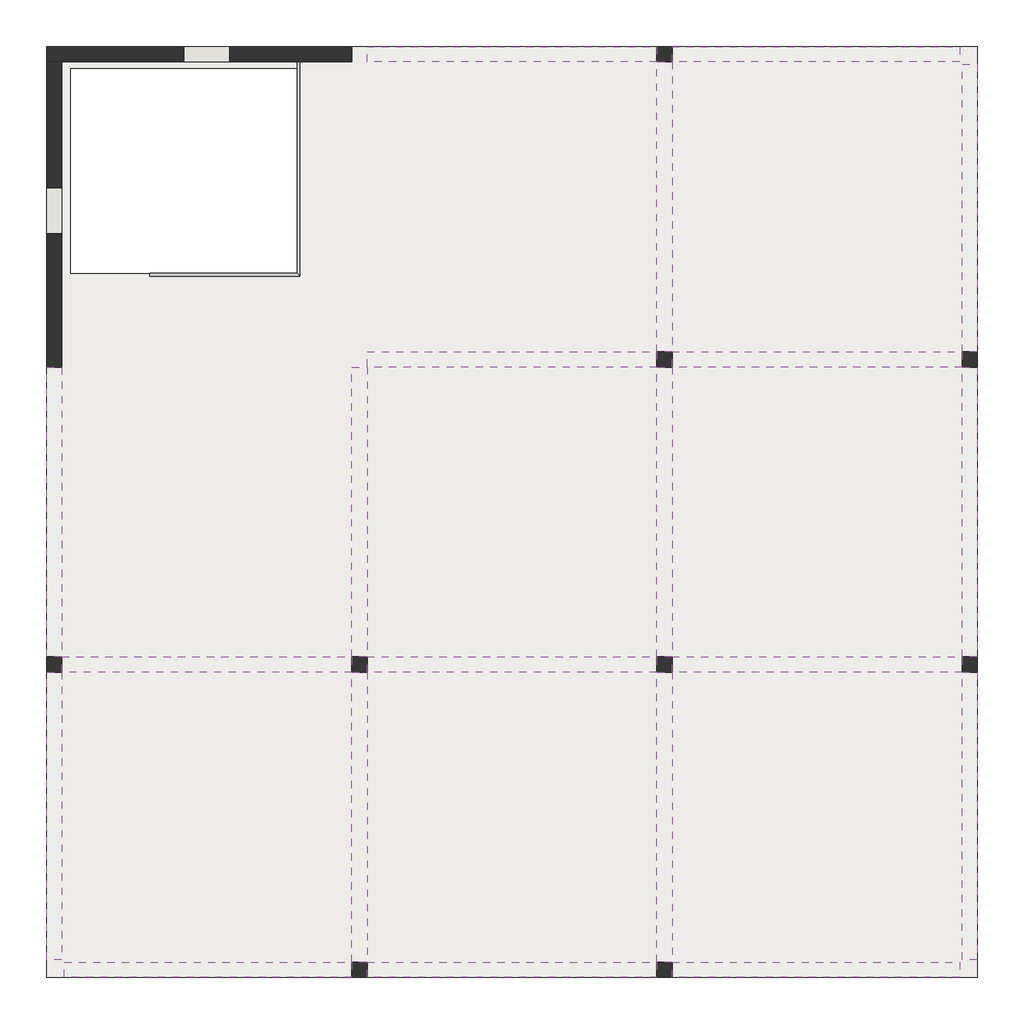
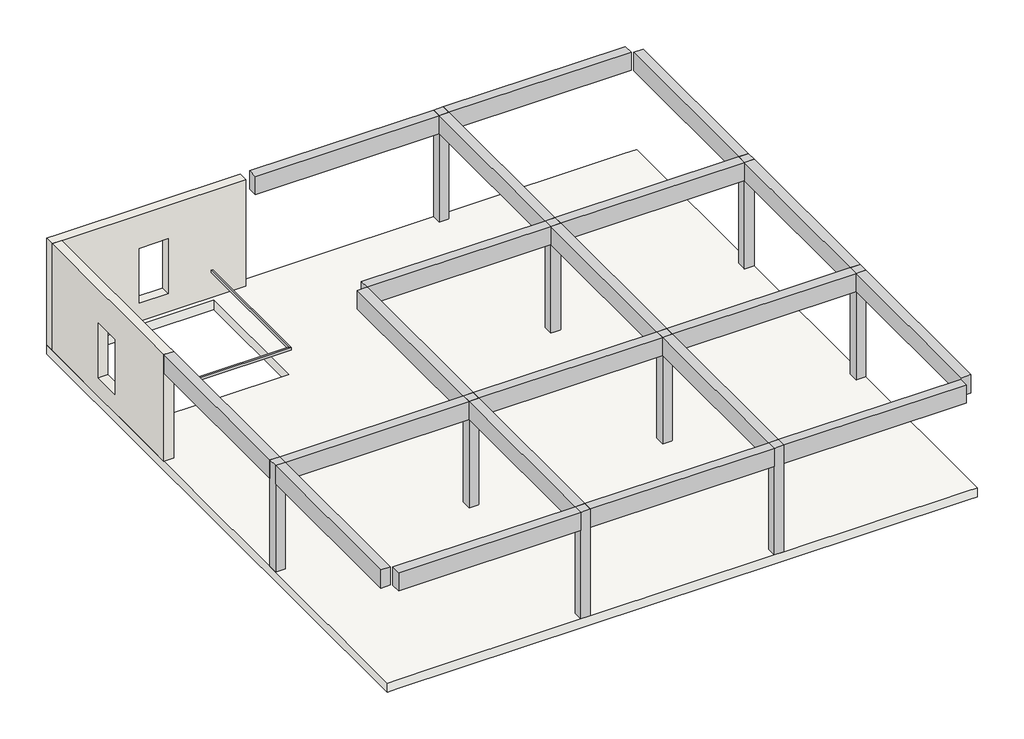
# One storey: 20 beams, 9 columns, 5 slabs, 2 walls, 1 railing.
"""IFC4 building model written with IfcOpenShell, lengths in millimetres."""

from ifc_helpers import new_model, si_unit, frame, origin, place, context, project, spatial, polyline, outline, extrude, faceted_brep, transform, mapped, element, save
from components import railing_900_mm_d9ed72f4, fundament_1db0145b

model = new_model("IFC4")

# Units and contexts
model_context = context("Model", 3, world=origin())
ifc_project = project(units=[si_unit("LENGTHUNIT", "METRE", prefix="MILLI")], contexts=[model_context])

# Site, building, storey
site = spatial("IfcSite", under=ifc_project)
building = spatial("IfcBuilding", under=site)
storey = spatial("IfcBuildingStorey", under=building, Name="Decke über KG", Elevation=0.0)

# Beams
placement = place(None, origin())
element("IfcBeam", 1, ObjectType="STB Unterzug : STB 30 x 60", at=placement, inside=storey, context=model_context, shape_type="SweptSolid", body=[
    extrude(outline(polyline([(-8591.8279477, -1996.8681354), (-8891.8279477, -1996.8681354), (-8891.8279477, 3703.1318646), (-8591.8279477, 3703.1318646), (-8591.8279477, -1996.8681354)])), frame((0.0, 0.0, 2900.0), z_axis=(0.0, 0.0, 1.0), x_axis=(1.0, 0.0, 0.0)), (0.0, 0.0, 1.0), 600.0),
])
element("IfcBeam", 2, ObjectType="STB Unterzug : STB 30 x 60", at=placement, inside=storey, context=model_context, shape_type="SweptSolid", body=[
    extrude(outline(polyline([(-8891.8279477, -2296.8681354), (-8591.8279477, -2296.8681354), (-8591.8279477, -7946.8681354), (-8891.8279477, -7946.8681354), (-8891.8279477, -2296.8681354)])), frame((0.0, 0.0, 2900.0), z_axis=(0.0, 0.0, 1.0), x_axis=(1.0, 0.0, 0.0)), (0.0, 0.0, 1.0), 600.0),
])
element("IfcBeam", 3, ObjectType="STB Unterzug : STB 30 x 60", at=placement, inside=storey, context=model_context, shape_type="SweptSolid", body=[
    extrude(outline(polyline([(-2591.8279477, -1996.8681354), (-2891.8279477, -1996.8681354), (-2891.8279477, 3703.1318646), (-2591.8279477, 3703.1318646), (-2591.8279477, -1996.8681354)])), frame((0.0, 0.0, 2900.0), z_axis=(0.0, 0.0, 1.0), x_axis=(1.0, 0.0, 0.0)), (0.0, 0.0, 1.0), 600.0),
])
element("IfcBeam", 4, ObjectType="STB Unterzug : STB 30 x 60", at=placement, inside=storey, context=model_context, shape_type="SweptSolid", body=[
    extrude(outline(polyline([(-2591.8279477, -7996.8681354), (-2891.8279477, -7996.8681354), (-2891.8279477, -2296.8681354), (-2591.8279477, -2296.8681354), (-2591.8279477, -7996.8681354)])), frame((0.0, 0.0, 2900.0), z_axis=(0.0, 0.0, 1.0), x_axis=(1.0, 0.0, 0.0)), (0.0, 0.0, 1.0), 600.0),
])
element("IfcBeam", 5, ObjectType="STB Unterzug : STB 30 x 60", at=placement, inside=storey, context=model_context, shape_type="SweptSolid", body=[
    extrude(outline(polyline([(3408.1720523, 4003.1318646), (3108.1720523, 4003.1318646), (3108.1720523, 9703.1318646), (3408.1720523, 9703.1318646), (3408.1720523, 4003.1318646)])), frame((0.0, 0.0, 2900.0), z_axis=(0.0, 0.0, 1.0), x_axis=(1.0, 0.0, 0.0)), (0.0, 0.0, 1.0), 600.0),
])
element("IfcBeam", 6, ObjectType="STB Unterzug : STB 30 x 60", at=placement, inside=storey, context=model_context, shape_type="SweptSolid", body=[
    extrude(outline(polyline([(3408.1720523, -1996.8681354), (3108.1720523, -1996.8681354), (3108.1720523, 3703.1318646), (3408.1720523, 3703.1318646), (3408.1720523, -1996.8681354)])), frame((0.0, 0.0, 2900.0), z_axis=(0.0, 0.0, 1.0), x_axis=(1.0, 0.0, 0.0)), (0.0, 0.0, 1.0), 600.0),
])
element("IfcBeam", 7, ObjectType="STB Unterzug : STB 30 x 60", at=placement, inside=storey, context=model_context, shape_type="SweptSolid", body=[
    extrude(outline(polyline([(3408.1720523, -7996.8681354), (3108.1720523, -7996.8681354), (3108.1720523, -2296.8681354), (3408.1720523, -2296.8681354), (3408.1720523, -7996.8681354)])), frame((0.0, 0.0, 2900.0), z_axis=(0.0, 0.0, 1.0), x_axis=(1.0, 0.0, 0.0)), (0.0, 0.0, 1.0), 600.0),
])
element("IfcBeam", 8, ObjectType="STB Unterzug : STB 30 x 60", at=placement, inside=storey, context=model_context, shape_type="SweptSolid", body=[
    extrude(outline(polyline([(9408.1720523, 4003.1318646), (9108.1720523, 4003.1318646), (9108.1720523, 9653.1318646), (9408.1720523, 9653.1318646), (9408.1720523, 4003.1318646)])), frame((0.0, 0.0, 2900.0), z_axis=(0.0, 0.0, 1.0), x_axis=(1.0, 0.0, 0.0)), (0.0, 0.0, 1.0), 600.0),
])
element("IfcBeam", 9, ObjectType="STB Unterzug : STB 30 x 60", at=placement, inside=storey, context=model_context, shape_type="SweptSolid", body=[
    extrude(outline(polyline([(9408.1720523, -1996.8681354), (9108.1720523, -1996.8681354), (9108.1720523, 3703.1318646), (9408.1720523, 3703.1318646), (9408.1720523, -1996.8681354)])), frame((0.0, 0.0, 2900.0), z_axis=(0.0, 0.0, 1.0), x_axis=(1.0, 0.0, 0.0)), (0.0, 0.0, 1.0), 600.0),
])
element("IfcBeam", 10, ObjectType="STB Unterzug : STB 30 x 60", at=placement, inside=storey, context=model_context, shape_type="SweptSolid", body=[
    extrude(outline(polyline([(9108.1720523, -2296.8681354), (9408.1720523, -2296.8681354), (9408.1720523, -7946.8681354), (9108.1720523, -7946.8681354), (9108.1720523, -2296.8681354)])), frame((0.0, 0.0, 2900.0), z_axis=(0.0, 0.0, 1.0), x_axis=(1.0, 0.0, 0.0)), (0.0, 0.0, 1.0), 600.0),
])
element("IfcBeam", 11, ObjectType="STB Unterzug : STB 30 x 60", at=placement, inside=storey, context=model_context, shape_type="SweptSolid", body=[
    extrude(outline(polyline([(3408.1720523, -8296.8681354), (3408.1720523, -7996.8681354), (9058.1720523, -7996.8681354), (9058.1720523, -8296.8681354), (3408.1720523, -8296.8681354)])), frame((0.0, 0.0, 2900.0), z_axis=(0.0, 0.0, 1.0), x_axis=(1.0, 0.0, 0.0)), (0.0, 0.0, 1.0), 600.0),
])
element("IfcBeam", 12, ObjectType="STB Unterzug : STB 30 x 60", at=placement, inside=storey, context=model_context, shape_type="SweptSolid", body=[
    extrude(outline(polyline([(-2591.8279477, -8296.8681354), (-2591.8279477, -7996.8681354), (3108.1720523, -7996.8681354), (3108.1720523, -8296.8681354), (-2591.8279477, -8296.8681354)])), frame((0.0, 0.0, 2900.0), z_axis=(0.0, 0.0, 1.0), x_axis=(1.0, 0.0, 0.0)), (0.0, 0.0, 1.0), 600.0),
])
element("IfcBeam", 13, ObjectType="STB Unterzug : STB 30 x 60", at=placement, inside=storey, context=model_context, shape_type="SweptSolid", body=[
    extrude(outline(polyline([(-2891.8279477, -7996.8681354), (-2891.8279477, -8296.8681354), (-8541.8279477, -8296.8681354), (-8541.8279477, -7996.8681354), (-2891.8279477, -7996.8681354)])), frame((0.0, 0.0, 2900.0), z_axis=(0.0, 0.0, 1.0), x_axis=(1.0, 0.0, 0.0)), (0.0, 0.0, 1.0), 600.0),
])
element("IfcBeam", 14, ObjectType="STB Unterzug : STB 30 x 60", at=placement, inside=storey, context=model_context, shape_type="SweptSolid", body=[
    extrude(outline(polyline([(3408.1720523, -2296.8681354), (3408.1720523, -1996.8681354), (9108.1720523, -1996.8681354), (9108.1720523, -2296.8681354), (3408.1720523, -2296.8681354)])), frame((0.0, 0.0, 2900.0), z_axis=(0.0, 0.0, 1.0), x_axis=(1.0, 0.0, 0.0)), (0.0, 0.0, 1.0), 600.0),
])
element("IfcBeam", 15, ObjectType="STB Unterzug : STB 30 x 60", at=placement, inside=storey, context=model_context, shape_type="SweptSolid", body=[
    extrude(outline(polyline([(-2591.8279477, -2296.8681354), (-2591.8279477, -1996.8681354), (3108.1720523, -1996.8681354), (3108.1720523, -2296.8681354), (-2591.8279477, -2296.8681354)])), frame((0.0, 0.0, 2900.0), z_axis=(0.0, 0.0, 1.0), x_axis=(1.0, 0.0, 0.0)), (0.0, 0.0, 1.0), 600.0),
])
element("IfcBeam", 16, ObjectType="STB Unterzug : STB 30 x 60", at=placement, inside=storey, context=model_context, shape_type="SweptSolid", body=[
    extrude(outline(polyline([(-8591.8279477, -2296.8681354), (-8591.8279477, -1996.8681354), (-2891.8279477, -1996.8681354), (-2891.8279477, -2296.8681354), (-8591.8279477, -2296.8681354)])), frame((0.0, 0.0, 2900.0), z_axis=(0.0, 0.0, 1.0), x_axis=(1.0, 0.0, 0.0)), (0.0, 0.0, 1.0), 600.0),
])
element("IfcBeam", 17, ObjectType="STB Unterzug : STB 30 x 60", at=placement, inside=storey, context=model_context, shape_type="SweptSolid", body=[
    extrude(outline(polyline([(3408.1720523, 3703.1318646), (3408.1720523, 4003.1318646), (9108.1720523, 4003.1318646), (9108.1720523, 3703.1318646), (3408.1720523, 3703.1318646)])), frame((0.0, 0.0, 2900.0), z_axis=(0.0, 0.0, 1.0), x_axis=(1.0, 0.0, 0.0)), (0.0, 0.0, 1.0), 600.0),
])
element("IfcBeam", 18, ObjectType="STB Unterzug : STB 30 x 60", at=placement, inside=storey, context=model_context, shape_type="SweptSolid", body=[
    extrude(outline(polyline([(3108.1720523, 4003.1318646), (3108.1720523, 3703.1318646), (-2591.8279477, 3703.1318646), (-2591.8279477, 4003.1318646), (3108.1720523, 4003.1318646)])), frame((0.0, 0.0, 2900.0), z_axis=(0.0, 0.0, 1.0), x_axis=(1.0, 0.0, 0.0)), (0.0, 0.0, 1.0), 600.0),
])
element("IfcBeam", 19, ObjectType="STB Unterzug : STB 30 x 60", at=placement, inside=storey, context=model_context, shape_type="SweptSolid", body=[
    extrude(outline(polyline([(3408.1720523, 9703.1318646), (3408.1720523, 10003.1318646), (9058.1720523, 10003.1318646), (9058.1720523, 9703.1318646), (3408.1720523, 9703.1318646)])), frame((0.0, 0.0, 2900.0), z_axis=(0.0, 0.0, 1.0), x_axis=(1.0, 0.0, 0.0)), (0.0, 0.0, 1.0), 600.0),
])
element("IfcBeam", 20, ObjectType="STB Unterzug : STB 30 x 60", at=placement, inside=storey, context=model_context, shape_type="SweptSolid", body=[
    extrude(outline(polyline([(3108.1720523, 10003.1318646), (3108.1720523, 9703.1318646), (-2591.8279477, 9703.1318646), (-2591.8279477, 10003.1318646), (3108.1720523, 10003.1318646)])), frame((0.0, 0.0, 2900.0), z_axis=(0.0, 0.0, 1.0), x_axis=(1.0, 0.0, 0.0)), (0.0, 0.0, 1.0), 600.0),
])

# Columns
element("IfcColumn", 21, ObjectType="STB Stütze - rechteckig : STB 30 x 30", at=placement, inside=storey, context=model_context, shape_type="Brep", body=[
    faceted_brep([(-8891.8279477, -2296.8681354, 0.0), (-8891.8279477, -1996.8681354, 0.0), (-8591.8279477, -1996.8681354, 0.0), (-8591.8279477, -2296.8681354, 0.0), (-8891.8279477, -2296.8681354, 3500.0), (-8891.8279477, -1996.8681354, 3500.0), (-8891.8279477, -1996.8681354, 2900.0), (-8891.8279477, -2296.8681354, 2900.0), (-8591.8279477, -1996.8681354, 3500.0), (-8591.8279477, -1996.8681354, 2900.0), (-8591.8279477, -2296.8681354, 3500.0), (-8591.8279477, -2296.8681354, 2900.0)], [[[0, 1, 2, 3]], [[4, 5, 6, 1, 0, 7]], [[5, 8, 9, 2, 1, 6]], [[8, 10, 11, 3, 2, 9]], [[10, 4, 7, 0, 3, 11]], [[4, 10, 8, 5]]]),
])
element("IfcColumn", 22, ObjectType="STB Stütze - rechteckig : STB 30 x 30", at=placement, inside=storey, context=model_context, shape_type="Brep", body=[
    faceted_brep([(-2891.8279477, -8296.8681354, 0.0), (-2891.8279477, -7996.8681354, 0.0), (-2591.8279477, -7996.8681354, 0.0), (-2591.8279477, -8296.8681354, 0.0), (-2891.8279477, -8296.8681354, 3500.0), (-2891.8279477, -7996.8681354, 3500.0), (-2891.8279477, -7996.8681354, 2900.0), (-2891.8279477, -8296.8681354, 2900.0), (-2591.8279477, -7996.8681354, 3500.0), (-2591.8279477, -7996.8681354, 2900.0), (-2591.8279477, -8296.8681354, 3500.0), (-2591.8279477, -8296.8681354, 2900.0)], [[[0, 1, 2, 3]], [[4, 5, 6, 1, 0, 7]], [[5, 8, 9, 2, 1, 6]], [[8, 10, 11, 3, 2, 9]], [[10, 4, 7, 0, 3, 11]], [[4, 10, 8, 5]]]),
])
element("IfcColumn", 23, ObjectType="STB Stütze - rechteckig : STB 30 x 30", at=placement, inside=storey, context=model_context, shape_type="Brep", body=[
    faceted_brep([(-2891.8279477, -2296.8681354, 0.0), (-2891.8279477, -1996.8681354, 0.0), (-2591.8279477, -1996.8681354, 0.0), (-2591.8279477, -2296.8681354, 0.0), (-2891.8279477, -2296.8681354, 3500.0), (-2891.8279477, -1996.8681354, 3500.0), (-2891.8279477, -1996.8681354, 2900.0), (-2891.8279477, -2296.8681354, 2900.0), (-2591.8279477, -1996.8681354, 3500.0), (-2591.8279477, -1996.8681354, 2900.0), (-2591.8279477, -2296.8681354, 3500.0), (-2591.8279477, -2296.8681354, 2900.0)], [[[0, 1, 2, 3]], [[4, 5, 6, 1, 0, 7]], [[5, 8, 9, 2, 1, 6]], [[8, 10, 11, 3, 2, 9]], [[10, 4, 7, 0, 3, 11]], [[4, 10, 8, 5]]]),
])
element("IfcColumn", 24, ObjectType="STB Stütze - rechteckig : STB 30 x 30", at=placement, inside=storey, context=model_context, shape_type="Brep", body=[
    faceted_brep([(3108.1720523, -8296.8681354, 0.0), (3108.1720523, -7996.8681354, 0.0), (3408.1720523, -7996.8681354, 0.0), (3408.1720523, -8296.8681354, 0.0), (3108.1720523, -8296.8681354, 3500.0), (3108.1720523, -7996.8681354, 3500.0), (3108.1720523, -7996.8681354, 2900.0), (3108.1720523, -8296.8681354, 2900.0), (3408.1720523, -7996.8681354, 3500.0), (3408.1720523, -7996.8681354, 2900.0), (3408.1720523, -8296.8681354, 3500.0), (3408.1720523, -8296.8681354, 2900.0)], [[[0, 1, 2, 3]], [[4, 5, 6, 1, 0, 7]], [[5, 8, 9, 2, 1, 6]], [[8, 10, 11, 3, 2, 9]], [[10, 4, 7, 0, 3, 11]], [[4, 10, 8, 5]]]),
])
element("IfcColumn", 25, ObjectType="STB Stütze - rechteckig : STB 30 x 30", at=placement, inside=storey, context=model_context, shape_type="Brep", body=[
    faceted_brep([(3108.1720523, -2296.8681354, 0.0), (3108.1720523, -1996.8681354, 0.0), (3408.1720523, -1996.8681354, 0.0), (3408.1720523, -2296.8681354, 0.0), (3108.1720523, -2296.8681354, 3500.0), (3108.1720523, -1996.8681354, 3500.0), (3108.1720523, -1996.8681354, 2900.0), (3108.1720523, -2296.8681354, 2900.0), (3408.1720523, -1996.8681354, 3500.0), (3408.1720523, -1996.8681354, 2900.0), (3408.1720523, -2296.8681354, 3500.0), (3408.1720523, -2296.8681354, 2900.0)], [[[0, 1, 2, 3]], [[4, 5, 6, 1, 0, 7]], [[5, 8, 9, 2, 1, 6]], [[8, 10, 11, 3, 2, 9]], [[10, 4, 7, 0, 3, 11]], [[4, 10, 8, 5]]]),
])
element("IfcColumn", 26, ObjectType="STB Stütze - rechteckig : STB 30 x 30", at=placement, inside=storey, context=model_context, shape_type="Brep", body=[
    faceted_brep([(3108.1720523, 3703.1318646, 0.0), (3108.1720523, 4003.1318646, 0.0), (3408.1720523, 4003.1318646, 0.0), (3408.1720523, 3703.1318646, 0.0), (3108.1720523, 3703.1318646, 3500.0), (3108.1720523, 4003.1318646, 3500.0), (3108.1720523, 4003.1318646, 2900.0), (3108.1720523, 3703.1318646, 2900.0), (3408.1720523, 4003.1318646, 3500.0), (3408.1720523, 4003.1318646, 2900.0), (3408.1720523, 3703.1318646, 3500.0), (3408.1720523, 3703.1318646, 2900.0)], [[[0, 1, 2, 3]], [[4, 5, 6, 1, 0, 7]], [[5, 8, 9, 2, 1, 6]], [[8, 10, 11, 3, 2, 9]], [[10, 4, 7, 0, 3, 11]], [[4, 10, 8, 5]]]),
])
element("IfcColumn", 27, ObjectType="STB Stütze - rechteckig : STB 30 x 30", at=placement, inside=storey, context=model_context, shape_type="Brep", body=[
    faceted_brep([(3108.1720523, 9703.1318646, 0.0), (3108.1720523, 10003.1318646, 0.0), (3408.1720523, 10003.1318646, 0.0), (3408.1720523, 9703.1318646, 0.0), (3108.1720523, 9703.1318646, 3500.0), (3108.1720523, 10003.1318646, 3500.0), (3108.1720523, 10003.1318646, 2900.0), (3108.1720523, 9703.1318646, 2900.0), (3408.1720523, 10003.1318646, 3500.0), (3408.1720523, 10003.1318646, 2900.0), (3408.1720523, 9703.1318646, 3500.0), (3408.1720523, 9703.1318646, 2900.0)], [[[0, 1, 2, 3]], [[4, 5, 6, 1, 0, 7]], [[5, 8, 9, 2, 1, 6]], [[8, 10, 11, 3, 2, 9]], [[10, 4, 7, 0, 3, 11]], [[4, 10, 8, 5]]]),
])
element("IfcColumn", 28, ObjectType="STB Stütze - rechteckig : STB 30 x 30", at=placement, inside=storey, context=model_context, shape_type="Brep", body=[
    faceted_brep([(9108.1720523, -2296.8681354, 0.0), (9108.1720523, -1996.8681354, 0.0), (9408.1720523, -1996.8681354, 0.0), (9408.1720523, -2296.8681354, 0.0), (9108.1720523, -2296.8681354, 3500.0), (9108.1720523, -1996.8681354, 3500.0), (9108.1720523, -1996.8681354, 2900.0), (9108.1720523, -2296.8681354, 2900.0), (9408.1720523, -1996.8681354, 3500.0), (9408.1720523, -1996.8681354, 2900.0), (9408.1720523, -2296.8681354, 3500.0), (9408.1720523, -2296.8681354, 2900.0)], [[[0, 1, 2, 3]], [[4, 5, 6, 1, 0, 7]], [[5, 8, 9, 2, 1, 6]], [[8, 10, 11, 3, 2, 9]], [[10, 4, 7, 0, 3, 11]], [[4, 10, 8, 5]]]),
])
element("IfcColumn", 29, ObjectType="STB Stütze - rechteckig : STB 30 x 30", at=placement, inside=storey, context=model_context, shape_type="Brep", body=[
    faceted_brep([(9108.1720523, 3703.1318646, 0.0), (9108.1720523, 4003.1318646, 0.0), (9408.1720523, 4003.1318646, 0.0), (9408.1720523, 3703.1318646, 0.0), (9108.1720523, 3703.1318646, 3500.0), (9108.1720523, 4003.1318646, 3500.0), (9108.1720523, 4003.1318646, 2900.0), (9108.1720523, 3703.1318646, 2900.0), (9408.1720523, 4003.1318646, 3500.0), (9408.1720523, 4003.1318646, 2900.0), (9408.1720523, 3703.1318646, 3500.0), (9408.1720523, 3703.1318646, 2900.0)], [[[0, 1, 2, 3]], [[4, 5, 6, 1, 0, 7]], [[5, 8, 9, 2, 1, 6]], [[8, 10, 11, 3, 2, 9]], [[10, 4, 7, 0, 3, 11]], [[4, 10, 8, 5]]]),
])

# Railing
railing_900_mm_shape = railing_900_mm_d9ed72f4(model_context)
element("IfcRailing", 30, ObjectType="900 mm", at=placement, inside=storey, context=model_context, shape_type="MappedRepresentation", body=[
    mapped(railing_900_mm_shape, transform((0.0, 0.0, 0.0), x_axis=(1.0, 0.0, 0.0), y_axis=(0.0, 1.0, 0.0), z_axis=(0.0, 0.0, 1.0))),
])

# Slabs
element("IfcSlab", 31, ObjectType="Fundament : 1.00 x  1.00 x 1.20", at=placement, inside=storey, context=model_context, shape_type="Brep", body=[
    faceted_brep([(-3241.8279477, 3353.1318646, -3000.0), (-2241.8279477, 3353.1318646, -3000.0), (-2241.8279477, 4353.1318646, -3000.0), (-3241.8279477, 4353.1318646, -3000.0), (-3241.8279477, 3353.1318646, -4000.0), (-3241.8279477, 4353.1318646, -4000.0), (-2241.8279477, 4353.1318646, -4000.0), (-2241.8279477, 3353.1318646, -4000.0), (-3241.8279477, 3353.1318646, -3500.0), (-2241.8279477, 3353.1318646, -3500.0), (-2241.8279477, 4353.1318646, -3500.0), (-3241.8279477, 4353.1318646, -3500.0)], [[[0, 1, 2, 3]], [[4, 5, 6, 7]], [[1, 0, 8, 4, 7, 9]], [[2, 1, 9, 7, 6, 10]], [[3, 2, 10, 6, 5, 11]], [[0, 3, 11, 5, 4, 8]]]),
])
fundament_shape = fundament_1db0145b(model_context)
element("IfcSlab", 32, ObjectType="Fundament : 1.00 x  1.00 x 1.20", at=placement, inside=storey, context=model_context, shape_type="MappedRepresentation", body=[
    mapped(fundament_shape, transform((3620.7695244, 3542.9216289, -3000.0), x_axis=(-1.0, 0.0, 0.0), y_axis=(0.0, -1.0, 0.0), z_axis=(0.0, 0.0, 1.0))),
])
element("IfcSlab", 33, ObjectType="Fundament : 1.00 x  1.00 x 1.20", at=placement, inside=storey, context=model_context, shape_type="MappedRepresentation", body=[
    mapped(fundament_shape, transform((3620.7695244, -2457.0783711, -3000.0), x_axis=(-1.0, 0.0, 0.0), y_axis=(0.0, -1.0, 0.0), z_axis=(0.0, 0.0, 1.0))),
])
element("IfcSlab", 34, ObjectType="Fundament : 1.00 x  1.00 x 1.20", at=placement, inside=storey, context=model_context, shape_type="MappedRepresentation", body=[
    mapped(fundament_shape, transform((-2379.2304756, -2457.0783711, -3000.0), x_axis=(-1.0, 0.0, 0.0), y_axis=(0.0, -1.0, 0.0), z_axis=(0.0, 0.0, 1.0))),
])
element("IfcSlab", 35, ObjectType="Generisch 300 mm", at=placement, inside=storey, context=model_context, shape_type="Brep", body=[
    faceted_brep([(9408.1720523, 10003.1318646, -300.0), (9408.1720523, -8296.8681354, -300.0), (9108.1720523, -8296.8681354, -300.0), (3258.1720523, -8296.8681354, -300.0), (-2741.8279477, -8296.8681354, -300.0), (-8591.8279477, -8296.8681354, -300.0), (-8891.8279477, -8296.8681354, -300.0), (-8891.8279477, 9703.1318646, -300.0), (-8891.8279477, 10003.1318646, -300.0), (9108.1720523, 10003.1318646, -300.0), (-3960.034414, 5542.6835606, -300.0), (-3960.034414, 9562.6835606, -300.0), (-8411.412268, 9562.6835606, -300.0), (-8411.412268, 5542.6835606, -300.0), (9408.1720523, 10003.1318646, 0.0), (9058.1720523, 10003.1318646, 0.0), (3408.1720523, 10003.1318646, 0.0), (3108.1720523, 10003.1318646, 0.0), (-8891.8279477, 10003.1318646, 0.0), (-8891.8279477, -1996.8681354, 0.0), (-8891.8279477, -2296.8681354, 0.0), (-8891.8279477, -7946.8681354, 0.0), (-8891.8279477, -8296.8681354, 0.0), (-8541.8279477, -8296.8681354, 0.0), (-2891.8279477, -8296.8681354, 0.0), (-2591.8279477, -8296.8681354, 0.0), (3108.1720523, -8296.8681354, 0.0), (3408.1720523, -8296.8681354, 0.0), (9058.1720523, -8296.8681354, 0.0), (9408.1720523, -8296.8681354, 0.0), (9408.1720523, -7946.8681354, 0.0), (9408.1720523, -2296.8681354, 0.0), (9408.1720523, -1996.8681354, 0.0), (9408.1720523, 3703.1318646, 0.0), (9408.1720523, 4003.1318646, 0.0), (9408.1720523, 9653.1318646, 0.0), (-3960.034414, 5542.6835606, 0.0), (-8411.412268, 5542.6835606, 0.0), (-8411.412268, 9562.6835606, 0.0), (-3960.034414, 9562.6835606, 0.0)], [[[0, 1, 2, 3, 4, 5, 6, 7, 8, 9], [10, 11, 12, 13]], [[14, 15, 16, 17, 18, 19, 20, 21, 22, 23, 24, 25, 26, 27, 28, 29, 30, 31, 32, 33, 34, 35], [36, 37, 38, 39]], [[1, 0, 14, 35, 34, 33, 32, 31, 30, 29]], [[6, 5, 4, 3, 2, 1, 29, 28, 27, 26, 25, 24, 23, 22]], [[8, 7, 6, 22, 21, 20, 19, 18]], [[0, 9, 8, 18, 17, 16, 15, 14]], [[11, 10, 36, 39]], [[12, 11, 39, 38]], [[13, 12, 38, 37]], [[10, 13, 37, 36]]]),
])

# Walls
element("IfcWall", 36, ObjectType="STB 30.0", at=placement, inside=storey, context=model_context, shape_type="Brep", body=[
    faceted_brep([(-8891.8279477, 9703.1318646, 0.0), (-8591.8279477, 9703.1318646, 0.0), (-8541.8279477, 9703.1318646, 0.0), (-2891.8279477, 9703.1318646, 0.0), (-2891.8279477, 9703.1318646, 3500.0), (-8541.8279477, 9703.1318646, 3500.0), (-8591.8279477, 9703.1318646, 3500.0), (-8891.8279477, 9703.1318646, 3500.0), (-6191.8279477, 9703.1318646, 2400.0), (-5291.8279477, 9703.1318646, 2400.0), (-5291.8279477, 9703.1318646, 600.0), (-6191.8279477, 9703.1318646, 600.0), (-8891.8279477, 10003.1318646, 0.0), (-8891.8279477, 10003.1318646, 3500.0), (-8541.8279477, 10003.1318646, 3500.0), (-2891.8279477, 10003.1318646, 3500.0), (-2891.8279477, 10003.1318646, 0.0), (-6191.8279477, 10003.1318646, 2400.0), (-6191.8279477, 10003.1318646, 600.0), (-5291.8279477, 10003.1318646, 600.0), (-5291.8279477, 10003.1318646, 2400.0)], [[[0, 1, 2, 3, 4, 5, 6, 7], [8, 9, 10, 11]], [[12, 13, 14, 15, 16], [17, 18, 19, 20]], [[3, 2, 1, 0, 12, 16]], [[7, 6, 5, 4, 15, 14, 13]], [[4, 3, 16, 15]], [[0, 7, 13, 12]], [[18, 17, 8, 11]], [[19, 18, 11, 10]], [[20, 19, 10, 9]], [[17, 20, 9, 8]]]),
])
element("IfcWall", 37, ObjectType="STB 30.0", at=placement, inside=storey, context=model_context, shape_type="Brep", body=[
    faceted_brep([(-8591.8279477, 3703.1318646, 0.0), (-8591.8279477, 9653.1318646, 0.0), (-8591.8279477, 9703.1318646, 0.0), (-8591.8279477, 9703.1318646, 3500.0), (-8591.8279477, 9653.1318646, 3500.0), (-8591.8279477, 4003.1318646, 3500.0), (-8591.8279477, 3703.1318646, 3500.0), (-8591.8279477, 3703.1318646, 2900.0), (-8591.8279477, 6328.1318646, 2400.0), (-8591.8279477, 7228.1318646, 2400.0), (-8591.8279477, 7228.1318646, 600.0), (-8591.8279477, 6328.1318646, 600.0), (-8891.8279477, 3703.1318646, 0.0), (-8891.8279477, 3703.1318646, 2900.0), (-8891.8279477, 3703.1318646, 3500.0), (-8891.8279477, 9653.1318646, 3500.0), (-8891.8279477, 9703.1318646, 3500.0), (-8891.8279477, 9703.1318646, 0.0), (-8891.8279477, 6328.1318646, 2400.0), (-8891.8279477, 6328.1318646, 600.0), (-8891.8279477, 7228.1318646, 600.0), (-8891.8279477, 7228.1318646, 2400.0)], [[[0, 1, 2, 3, 4, 5, 6, 7], [8, 9, 10, 11]], [[12, 13, 14, 15, 16, 17], [18, 19, 20, 21]], [[2, 1, 0, 12, 17]], [[6, 5, 4, 3, 16, 15, 14]], [[0, 7, 6, 14, 13, 12]], [[3, 2, 17, 16]], [[19, 18, 8, 11]], [[20, 19, 11, 10]], [[21, 20, 10, 9]], [[18, 21, 9, 8]]]),
])

save(model, "model.ifc")
